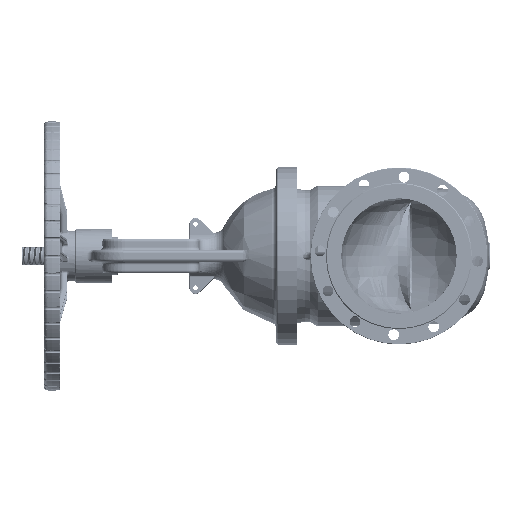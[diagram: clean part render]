
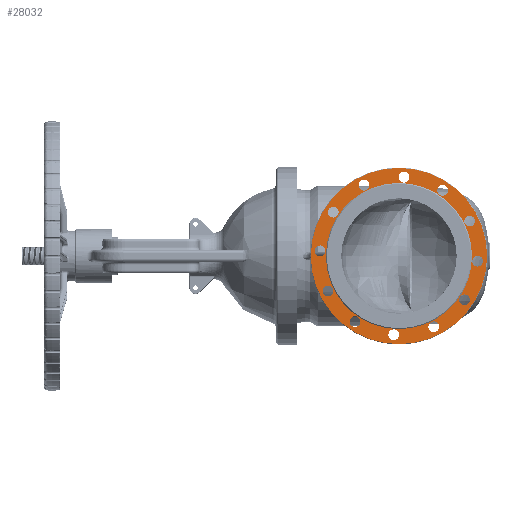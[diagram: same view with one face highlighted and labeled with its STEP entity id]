
A CAD part, left-side view. The second image highlights one B-rep face of the part: STEP entity #28032.
In plain terms, the highlighted planar face has unit normal (-1, 0, 0).
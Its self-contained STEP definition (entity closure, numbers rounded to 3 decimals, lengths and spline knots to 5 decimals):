
#450=FACE_BOUND('',#5508,.T.);
#451=FACE_BOUND('',#5509,.T.);
#452=FACE_BOUND('',#5510,.T.);
#453=FACE_BOUND('',#5511,.T.);
#454=FACE_BOUND('',#5512,.T.);
#455=FACE_BOUND('',#5513,.T.);
#456=FACE_BOUND('',#5514,.T.);
#457=FACE_BOUND('',#5515,.T.);
#458=FACE_BOUND('',#5516,.T.);
#459=FACE_BOUND('',#5517,.T.);
#460=FACE_BOUND('',#5518,.T.);
#461=FACE_BOUND('',#5519,.T.);
#462=FACE_BOUND('',#5520,.T.);
#605=PLANE('',#30063);
#3733=FACE_OUTER_BOUND('',#5507,.T.);
#5507=EDGE_LOOP('',(#19248));
#5508=EDGE_LOOP('',(#19249));
#5509=EDGE_LOOP('',(#19250));
#5510=EDGE_LOOP('',(#19251));
#5511=EDGE_LOOP('',(#19252));
#5512=EDGE_LOOP('',(#19253));
#5513=EDGE_LOOP('',(#19254));
#5514=EDGE_LOOP('',(#19255));
#5515=EDGE_LOOP('',(#19256));
#5516=EDGE_LOOP('',(#19257));
#5517=EDGE_LOOP('',(#19258));
#5518=EDGE_LOOP('',(#19259));
#5519=EDGE_LOOP('',(#19260));
#5520=EDGE_LOOP('',(#19261));
#9816=CIRCLE('',#29805,0.229);
#9851=CIRCLE('',#29857,0.014);
#9853=CIRCLE('',#29860,0.014);
#9855=CIRCLE('',#29863,0.014);
#9857=CIRCLE('',#29866,0.014);
#9859=CIRCLE('',#29869,0.014);
#9861=CIRCLE('',#29872,0.014);
#9863=CIRCLE('',#29875,0.014);
#9865=CIRCLE('',#29878,0.014);
#9867=CIRCLE('',#29881,0.014);
#9869=CIRCLE('',#29884,0.014);
#9871=CIRCLE('',#29887,0.014);
#9873=CIRCLE('',#29890,0.014);
#9912=CIRCLE('',#29948,0.1899);
#11218=VERTEX_POINT('',#40122);
#11253=VERTEX_POINT('',#40226);
#11255=VERTEX_POINT('',#40232);
#11257=VERTEX_POINT('',#40238);
#11259=VERTEX_POINT('',#40244);
#11261=VERTEX_POINT('',#40250);
#11263=VERTEX_POINT('',#40256);
#11265=VERTEX_POINT('',#40262);
#11267=VERTEX_POINT('',#40268);
#11269=VERTEX_POINT('',#40274);
#11271=VERTEX_POINT('',#40280);
#11273=VERTEX_POINT('',#40286);
#11275=VERTEX_POINT('',#40292);
#11324=VERTEX_POINT('',#40756);
#14030=EDGE_CURVE('',#11218,#11218,#9816,.T.);
#14082=EDGE_CURVE('',#11253,#11253,#9851,.T.);
#14085=EDGE_CURVE('',#11255,#11255,#9853,.T.);
#14088=EDGE_CURVE('',#11257,#11257,#9855,.T.);
#14091=EDGE_CURVE('',#11259,#11259,#9857,.T.);
#14094=EDGE_CURVE('',#11261,#11261,#9859,.T.);
#14097=EDGE_CURVE('',#11263,#11263,#9861,.T.);
#14100=EDGE_CURVE('',#11265,#11265,#9863,.T.);
#14103=EDGE_CURVE('',#11267,#11267,#9865,.T.);
#14106=EDGE_CURVE('',#11269,#11269,#9867,.T.);
#14109=EDGE_CURVE('',#11271,#11271,#9869,.T.);
#14112=EDGE_CURVE('',#11273,#11273,#9871,.T.);
#14115=EDGE_CURVE('',#11275,#11275,#9873,.T.);
#14180=EDGE_CURVE('',#11324,#11324,#9912,.T.);
#19248=ORIENTED_EDGE('',*,*,#14030,.T.);
#19249=ORIENTED_EDGE('',*,*,#14082,.F.);
#19250=ORIENTED_EDGE('',*,*,#14085,.F.);
#19251=ORIENTED_EDGE('',*,*,#14088,.F.);
#19252=ORIENTED_EDGE('',*,*,#14091,.F.);
#19253=ORIENTED_EDGE('',*,*,#14094,.F.);
#19254=ORIENTED_EDGE('',*,*,#14097,.F.);
#19255=ORIENTED_EDGE('',*,*,#14100,.F.);
#19256=ORIENTED_EDGE('',*,*,#14103,.F.);
#19257=ORIENTED_EDGE('',*,*,#14106,.F.);
#19258=ORIENTED_EDGE('',*,*,#14109,.F.);
#19259=ORIENTED_EDGE('',*,*,#14112,.F.);
#19260=ORIENTED_EDGE('',*,*,#14115,.F.);
#19261=ORIENTED_EDGE('',*,*,#14180,.F.);
#28032=ADVANCED_FACE('',(#3733,#450,#451,#452,#453,#454,#455,#456,#457,
#458,#459,#460,#461,#462),#605,.F.);
#29805=AXIS2_PLACEMENT_3D('',#40124,#32827,#32828);
#29857=AXIS2_PLACEMENT_3D('',#40228,#32948,#32949);
#29860=AXIS2_PLACEMENT_3D('',#40234,#32955,#32956);
#29863=AXIS2_PLACEMENT_3D('',#40240,#32962,#32963);
#29866=AXIS2_PLACEMENT_3D('',#40246,#32969,#32970);
#29869=AXIS2_PLACEMENT_3D('',#40252,#32976,#32977);
#29872=AXIS2_PLACEMENT_3D('',#40258,#32983,#32984);
#29875=AXIS2_PLACEMENT_3D('',#40264,#32990,#32991);
#29878=AXIS2_PLACEMENT_3D('',#40270,#32997,#32998);
#29881=AXIS2_PLACEMENT_3D('',#40276,#33004,#33005);
#29884=AXIS2_PLACEMENT_3D('',#40282,#33011,#33012);
#29887=AXIS2_PLACEMENT_3D('',#40288,#33018,#33019);
#29890=AXIS2_PLACEMENT_3D('',#40294,#33025,#33026);
#29948=AXIS2_PLACEMENT_3D('',#40757,#33155,#33156);
#30063=AXIS2_PLACEMENT_3D('',#217381,#33424,#33425);
#32827=DIRECTION('center_axis',(-1.,0.,0.));
#32828=DIRECTION('ref_axis',(0.,0.,-1.));
#32948=DIRECTION('center_axis',(-1.,0.,0.));
#32949=DIRECTION('ref_axis',(0.,0.,1.));
#32955=DIRECTION('center_axis',(-1.,0.,0.));
#32956=DIRECTION('ref_axis',(0.,0.,1.));
#32962=DIRECTION('center_axis',(-1.,0.,0.));
#32963=DIRECTION('ref_axis',(0.,0.,1.));
#32969=DIRECTION('center_axis',(-1.,0.,0.));
#32970=DIRECTION('ref_axis',(0.,0.,1.));
#32976=DIRECTION('center_axis',(-1.,0.,0.));
#32977=DIRECTION('ref_axis',(0.,0.,1.));
#32983=DIRECTION('center_axis',(-1.,0.,0.));
#32984=DIRECTION('ref_axis',(0.,0.,1.));
#32990=DIRECTION('center_axis',(-1.,0.,0.));
#32991=DIRECTION('ref_axis',(0.,0.,1.));
#32997=DIRECTION('center_axis',(-1.,0.,0.));
#32998=DIRECTION('ref_axis',(0.,0.,1.));
#33004=DIRECTION('center_axis',(-1.,0.,0.));
#33005=DIRECTION('ref_axis',(0.,0.,1.));
#33011=DIRECTION('center_axis',(-1.,0.,0.));
#33012=DIRECTION('ref_axis',(0.,0.,1.));
#33018=DIRECTION('center_axis',(-1.,0.,0.));
#33019=DIRECTION('ref_axis',(0.,0.,1.));
#33025=DIRECTION('center_axis',(-1.,0.,0.));
#33026=DIRECTION('ref_axis',(0.,0.,1.));
#33155=DIRECTION('center_axis',(-1.,0.,0.));
#33156=DIRECTION('ref_axis',(0.,0.,1.));
#33424=DIRECTION('center_axis',(1.,0.,0.));
#33425=DIRECTION('ref_axis',(0.,0.,-1.));
#40122=CARTESIAN_POINT('',(-0.41944,-0.00019,0.229));
#40124=CARTESIAN_POINT('Origin',(-0.41944,-0.00019,
0.));
#40226=CARTESIAN_POINT('',(-0.41944,-0.17053,-0.12793));
#40228=CARTESIAN_POINT('Origin',(-0.41944,-0.17053,
-0.11393));
#40232=CARTESIAN_POINT('',(-0.41944,-0.20464,-0.0274));
#40234=CARTESIAN_POINT('Origin',(-0.41944,-0.20464,
-0.0134));
#40238=CARTESIAN_POINT('',(-0.41944,-0.18393,0.07672));
#40240=CARTESIAN_POINT('Origin',(-0.41944,-0.18393,
0.09072));
#40244=CARTESIAN_POINT('',(-0.41944,-0.11393,0.15653));
#40246=CARTESIAN_POINT('Origin',(-0.41944,-0.11393,
0.17053));
#40250=CARTESIAN_POINT('',(-0.41944,-0.0134,0.19064));
#40252=CARTESIAN_POINT('Origin',(-0.41944,-0.0134,
0.20464));
#40256=CARTESIAN_POINT('',(-0.41944,0.09072,0.16993));
#40258=CARTESIAN_POINT('Origin',(-0.41944,0.09072,
0.18393));
#40262=CARTESIAN_POINT('',(-0.41944,0.17053,0.09993));
#40264=CARTESIAN_POINT('Origin',(-0.41944,0.17053,0.11393));
#40268=CARTESIAN_POINT('',(-0.41944,0.20464,-0.0006));
#40270=CARTESIAN_POINT('Origin',(-0.41944,0.20464,0.0134));
#40274=CARTESIAN_POINT('',(-0.41944,0.18393,-0.10472));
#40276=CARTESIAN_POINT('Origin',(-0.41944,0.18393,-0.09072));
#40280=CARTESIAN_POINT('',(-0.41944,0.11393,-0.18453));
#40282=CARTESIAN_POINT('Origin',(-0.41944,0.11393,-0.17053));
#40286=CARTESIAN_POINT('',(-0.41944,0.0134,-0.21864));
#40288=CARTESIAN_POINT('Origin',(-0.41944,0.0134,
-0.20464));
#40292=CARTESIAN_POINT('',(-0.41944,-0.09072,-0.19793));
#40294=CARTESIAN_POINT('Origin',(-0.41944,-0.09072,
-0.18393));
#40756=CARTESIAN_POINT('',(-0.41944,-0.00019,0.1899));
#40757=CARTESIAN_POINT('Origin',(-0.41944,-0.00019,
0.));
#217381=CARTESIAN_POINT('Origin',(-0.41944,0.22981,
0.));
